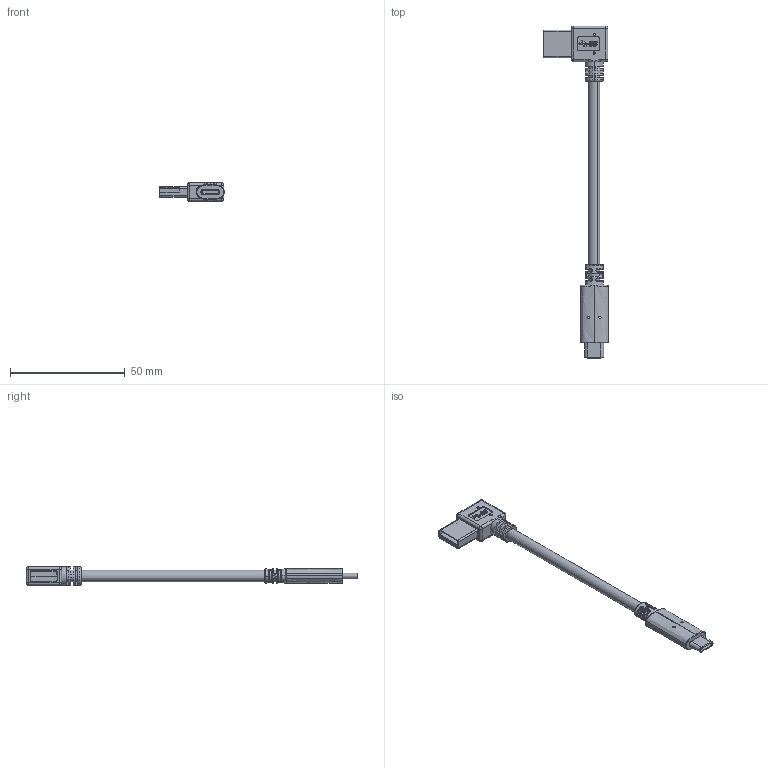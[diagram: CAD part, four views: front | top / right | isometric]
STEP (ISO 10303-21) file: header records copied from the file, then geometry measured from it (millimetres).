
FILE_DESCRIPTION (( 'STEP AP203' ), '1' );
FILE_NAME ('RR-ALCS-XXGRC_202302.STEP', '2023-02-17T05:22:04', ( '' ), ( '' ), 'SwSTEP 2.0', 'SolidWorks 2019', '' );
FILE_SCHEMA (( 'CONFIG_CONTROL_DESIGN' ));
Length unit declared in the file: millimetre
Products named in the file (1): RR-ALCS-XXGRC_202302
Bounding box: 28.12 x 144.65 x 8 mm (x, y, z)
Volume: 6288.6 mm3; surface area: 4640 mm2
Topology: 1 solids, 1 shells, 345 faces, 899 edges, 560 vertices
Faces by surface type: cylinder 151, plane 114, bspline 57, torus 11, sphere 8, cone 4
Entity records: 14163 total; most frequent: CARTESIAN_POINT 5934, ORIENTED_EDGE 1774, DIRECTION 1644, EDGE_CURVE 887, AXIS2_PLACEMENT_3D 620, VERTEX_POINT 560, VECTOR 404, LINE 404
